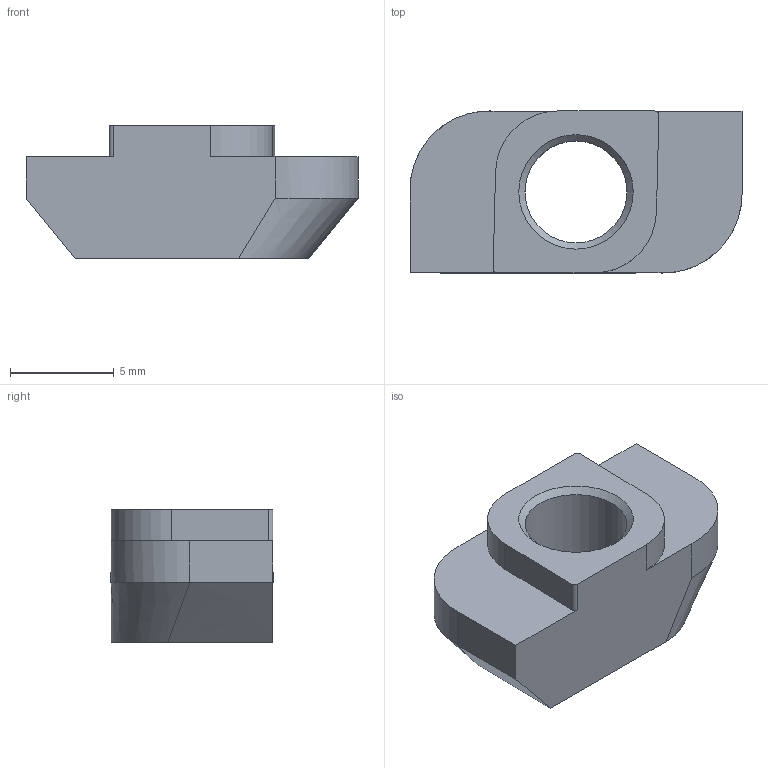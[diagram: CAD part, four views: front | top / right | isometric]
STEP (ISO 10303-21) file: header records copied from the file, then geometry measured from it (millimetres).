
FILE_DESCRIPTION((''),'2;1');
FILE_NAME('E:\catalogue and flyer\Profile catalogue 2015\Accessories JE info\Accessories-JE step file 31MAr16\JE-RN6-8_3030.stp','2016-03-31T16:33:16',('h029'),(''),'Autodesk Inventor 11','Autodesk Inventor 11','');
FILE_SCHEMA(('AUTOMOTIVE_DESIGN { 1 0 10303 214 1 1 1 1 }'));
Length unit declared in the file: millimetre
Products named in the file (1): JE-RN6-8_3030
Bounding box: 16 x 7.81 x 6.4 mm (x, y, z)
Volume: 492.6 mm3; surface area: 518.2 mm2
Topology: 1 solids, 1 shells, 22 faces, 61 edges, 41 vertices
Faces by surface type: plane 10, cylinder 6, bspline 5, cone 1
Entity records: 850 total; most frequent: CARTESIAN_POINT 283, ORIENTED_EDGE 116, DIRECTION 104, EDGE_CURVE 58, VERTEX_POINT 40, AXIS2_PLACEMENT_3D 35, VECTOR 34, LINE 34
